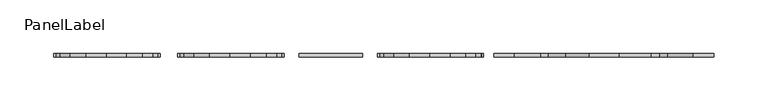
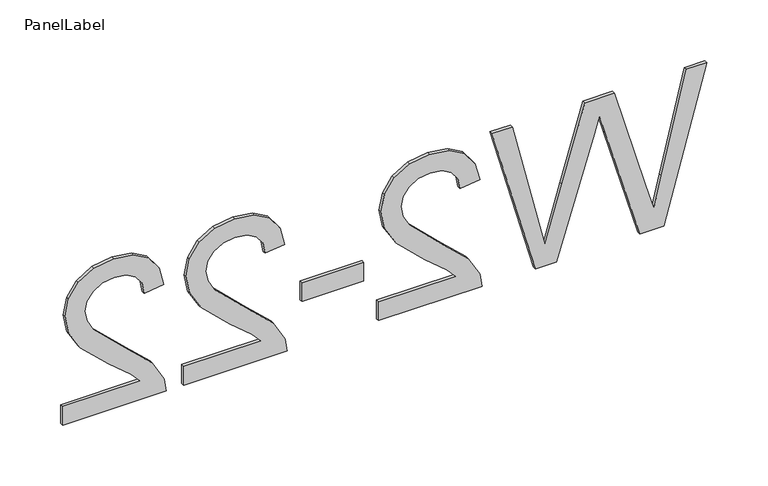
"""IFC4 building model written with IfcOpenShell, lengths in millimetres: fastener geometry, PanelLabel : Miranda."""

from ifc_helpers import new_model, si_unit, frame, origin, place, context, project, spatial, polyline, outline, extrude, source, transform, mapped, element, save


def panellabel_521c0b09(model_context):
    return source(origin(), model_context, "Body", "SweptSolid", [
        extrude(outline(polyline([(1310.9113766, 268.5683654), (1460.9667612, 309.4892308), (1460.9667612, 290.1461538), (1362.3463766, 266.4069231), (1331.9030112, 259.08), (1358.8294535, 251.2401923), (1460.9667612, 221.4928846), (1460.9667612, 193.6139423), (1386.9282035, 171.9995192), (1331.9030112, 155.9169231), (1361.4671458, 148.8098077), (1460.9667612, 124.8507692), (1460.9667612, 105.5076923), (1310.9113766, 146.4651923), (1310.9113766, 166.5043269), (1426.6767612, 202.4795192), (1442.8326266, 207.4984615), (1423.3796458, 213.1401923), (1310.9113766, 245.9281731), (1310.9113766, 268.5683654)])), frame((0.0, 100.80625, 0.0), z_axis=(0.0, 1.0, 0.0), x_axis=(0.0, 0.0, 1.0)), (0.0, 0.0, 1.0), 3.175),
        extrude(outline(polyline([(1329.6682997, -2.3446154), (1310.9113766, -2.3446154), (1310.9113766, 96.1292308), (1323.8433958, 94.1143269), (1343.7543093, 82.7209615), (1365.4969535, 59.2381731), (1396.7462804, 26.8531731), (1407.5168573, 20.7809856), (1417.9943573, 18.7569231), (1427.3865569, 20.6665024), (1435.1943093, 26.3952404), (1440.4559559, 35.2012861), (1442.2098381, 46.3427885), (1440.4971698, 58.0429688), (1435.359165, 67.1329327), (1427.1988045, 72.9990505), (1416.4190689, 75.0276923), (1418.7636843, 93.7846154), (1436.9069775, 89.2373438), (1450.1595497, 79.4055288), (1458.2649583, 64.8020553), (1460.9667612, 45.9398077), (1457.9627227, 26.9401803), (1448.9506073, 12.3641827), (1435.4873862, 3.0910457), (1419.1300304, 0.0), (1401.3439247, 3.33375), (1382.9533477, 14.4157212), (1357.254165, 41.2872115), (1339.211617, 62.865), (1329.6682997, 71.3275962), (1329.6682997, -2.3446154)])), frame((0.0, 100.80625, 0.0), z_axis=(0.0, 1.0, 0.0), x_axis=(0.0, 0.0, 1.0)), (0.0, 0.0, 1.0), 3.175),
        extrude(outline(polyline([(-75.0276923, 103.98125), (-16.4123077, 103.98125), (-16.4123077, 100.80625), (-75.0276923, 100.80625), (-75.0276923, 103.98125)])), frame((0.0, 0.0, 1355.4590689), z_axis=(0.0, 0.0, 1.0), x_axis=(1.0, 0.0, 0.0)), (0.0, 0.0, 1.0), 18.7569231),
        extrude(outline(polyline([(1329.6682997, -187.5692308), (1310.9113766, -187.5692308), (1310.9113766, -89.0953846), (1323.8433958, -91.1102885), (1343.7543093, -102.5036538), (1365.4969535, -125.9864423), (1396.7462804, -158.3714423), (1407.5168573, -164.4436298), (1417.9943573, -166.4676923), (1427.3865569, -164.558113), (1435.1943093, -158.829375), (1440.4559559, -150.0233293), (1442.2098381, -138.8818269), (1440.4971698, -127.1816466), (1435.359165, -118.0916827), (1427.1988045, -112.2255649), (1416.4190689, -110.1969231), (1418.7636843, -91.44), (1436.9069775, -95.9872716), (1450.1595497, -105.8190865), (1458.2649583, -120.4225601), (1460.9667612, -139.2848077), (1457.9627227, -158.2844351), (1448.9506073, -172.8604327), (1435.4873862, -182.1335697), (1419.1300304, -185.2246154), (1401.3439247, -181.8908654), (1382.9533477, -170.8088942), (1357.254165, -143.9374038), (1339.211617, -122.3596154), (1329.6682997, -113.8970192), (1329.6682997, -187.5692308)])), frame((0.0, 100.80625, 0.0), z_axis=(0.0, 1.0, 0.0), x_axis=(0.0, 0.0, 1.0)), (0.0, 0.0, 1.0), 3.175),
        extrude(outline(polyline([(1329.6682997, -302.4553846), (1310.9113766, -302.4553846), (1310.9113766, -203.9815385), (1323.8433958, -205.9964423), (1343.7543093, -217.3898077), (1365.4969535, -240.8725962), (1396.7462804, -273.2575962), (1407.5168573, -279.3297837), (1417.9943573, -281.3538462), (1427.3865569, -279.4442668), (1435.1943093, -273.7155288), (1440.4559559, -264.9094832), (1442.2098381, -253.7679808), (1440.4971698, -242.0678005), (1435.359165, -232.9778365), (1427.1988045, -227.1117187), (1416.4190689, -225.0830769), (1418.7636843, -206.3261538), (1436.9069775, -210.8734255), (1450.1595497, -220.7052404), (1458.2649583, -235.3087139), (1460.9667612, -254.1709615), (1457.9627227, -273.1705889), (1448.9506073, -287.7465865), (1435.4873862, -297.0197236), (1419.1300304, -300.1107692), (1401.3439247, -296.7770192), (1382.9533477, -285.6950481), (1357.254165, -258.8235577), (1339.211617, -237.2457692), (1329.6682997, -228.7831731), (1329.6682997, -302.4553846)])), frame((0.0, 100.80625, 0.0), z_axis=(0.0, 1.0, 0.0), x_axis=(0.0, 0.0, 1.0)), (0.0, 0.0, 1.0), 3.175),
    ])


if __name__ == "__main__":
    model = new_model("IFC4")
    model_context = context("Model", 3, world=origin())
    ifc_project = project(units=[si_unit("LENGTHUNIT", "METRE", prefix="MILLI")], contexts=[model_context])
    site = spatial("IfcSite", under=ifc_project)
    building = spatial("IfcBuilding", under=site)
    placement = place(None, origin())
    panellabel_shape = panellabel_521c0b09(model_context)
    element("IfcFastener", 1, ObjectType="PanelLabel : Miranda", at=placement, inside=building, context=model_context, shape_type="MappedRepresentation", body=[
        mapped(panellabel_shape, transform((0.0, 0.0, 0.0), x_axis=(1.0, 0.0, 0.0), y_axis=(0.0, 1.0, 0.0), z_axis=(0.0, 0.0, 1.0))),
    ])
    save(model, "model.ifc")
